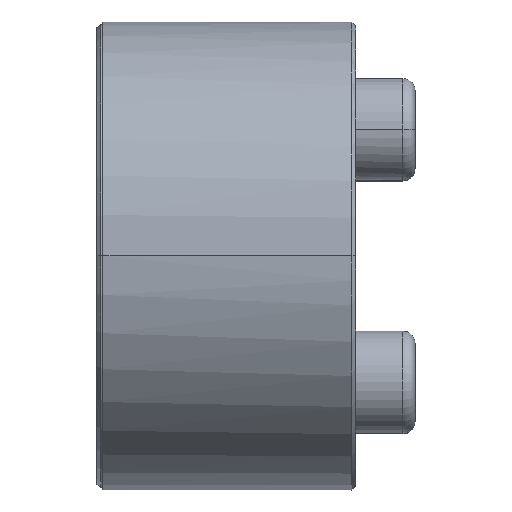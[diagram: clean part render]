
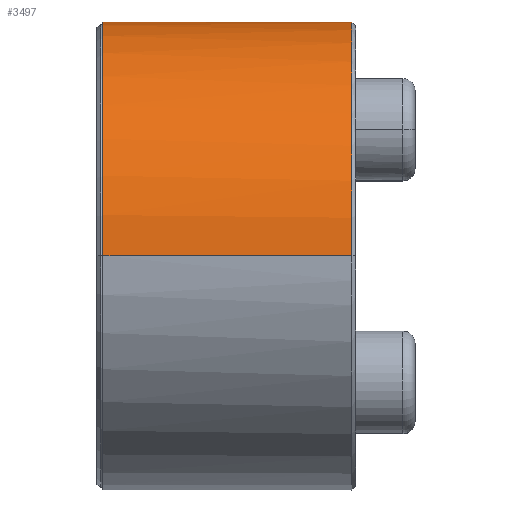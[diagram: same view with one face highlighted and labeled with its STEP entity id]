
A CAD part, top view. The second image highlights one B-rep face of the part: STEP entity #3497.
In plain terms, the highlighted cylindrical face has radius 19 mm (diameter 38 mm), a partial arc.
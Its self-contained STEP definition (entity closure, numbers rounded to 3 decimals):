
#22 = CARTESIAN_POINT ( 'NONE',  ( 20.686, 1.243, -19. ) ) ;
#64 = EDGE_CURVE ( 'NONE', #1168, #2019, #2271, .T. ) ;
#272 = DIRECTION ( 'NONE',  ( 1., 0., 0. ) ) ;
#330 = EDGE_CURVE ( 'NONE', #1168, #2873, #2304, .T. ) ;
#653 = DIRECTION ( 'NONE',  ( -1., 0., 0. ) ) ;
#823 = FACE_OUTER_BOUND ( 'NONE', #1007, .T. ) ;
#847 = CARTESIAN_POINT ( 'NONE',  ( 20.686, -0.001, -19. ) ) ;
#878 = EDGE_CURVE ( 'NONE', #2019, #3501, #1115, .T. ) ;
#908 = CARTESIAN_POINT ( 'NONE',  ( 20.686, 18.03, 6.122 ) ) ;
#926 = CARTESIAN_POINT ( 'NONE',  ( 20.686, 6.122, 18.03 ) ) ;
#927 = ORIENTED_EDGE ( 'NONE', *, *, #330, .F. ) ;
#971 = AXIS2_PLACEMENT_3D ( 'NONE', #3152, #653, #4023 ) ;
#1007 = EDGE_LOOP ( 'NONE', ( #3971, #927, #1633, #4356 ) ) ;
#1115 = B_SPLINE_CURVE_WITH_KNOTS ( 'NONE', 3,
 ( #3260, #3643, #2270, #1549, #926, #2206, #1882, #4253, #1261, #2882, #1942, #2584, #3616, #908, #1967, #4321, #3289, #2603, #3937, #1617, #2950, #4301, #1638, #1278, #1215, #2623, #3960, #1302, #2648, #3553, #3218, #1708, #22, #2011 ),
 .UNSPECIFIED., .F., .F.,
 ( 4, 2, 2, 2, 2, 2, 2, 2, 2, 2, 2, 2, 2, 2, 2, 2, 4 ),
 ( 0.246, 0.278, 0.309, 0.341, 0.373, 0.405, 0.436, 0.468, 0.5, 0.532, 0.564, 0.595, 0.627, 0.659, 0.691, 0.722, 0.754 ),
 .UNSPECIFIED. ) ;
#1121 = DIRECTION ( 'NONE',  ( 1., 0., 0. ) ) ;
#1168 = VERTEX_POINT ( 'NONE', #4121 ) ;
#1184 = CARTESIAN_POINT ( 'NONE',  ( 0.486, 0., 0. ) ) ;
#1215 = CARTESIAN_POINT ( 'NONE',  ( 20.686, 14.314, -12.556 ) ) ;
#1261 = CARTESIAN_POINT ( 'NONE',  ( 20.686, 12.555, 14.315 ) ) ;
#1278 = CARTESIAN_POINT ( 'NONE',  ( 20.686, 15.107, -11.59 ) ) ;
#1302 = CARTESIAN_POINT ( 'NONE',  ( 20.686, 9.521, -16.489 ) ) ;
#1549 = CARTESIAN_POINT ( 'NONE',  ( 20.686, 4.926, 18.392 ) ) ;
#1617 = CARTESIAN_POINT ( 'NONE',  ( 20.686, 18.392, -4.926 ) ) ;
#1633 = ORIENTED_EDGE ( 'NONE', *, *, #64, .T. ) ;
#1638 = CARTESIAN_POINT ( 'NONE',  ( 20.686, 16.489, -9.522 ) ) ;
#1708 = CARTESIAN_POINT ( 'NONE',  ( 20.686, 2.486, -18.878 ) ) ;
#1778 = DIRECTION ( 'NONE',  ( 0., 0., 1. ) ) ;
#1882 = CARTESIAN_POINT ( 'NONE',  ( 20.686, 9.521, 16.489 ) ) ;
#1942 = CARTESIAN_POINT ( 'NONE',  ( 20.686, 15.107, 11.59 ) ) ;
#1967 = CARTESIAN_POINT ( 'NONE',  ( 20.686, 18.392, 4.926 ) ) ;
#2011 = CARTESIAN_POINT ( 'NONE',  ( 20.686, -0.001, -19. ) ) ;
#2019 = VERTEX_POINT ( 'NONE', #4319 ) ;
#2076 = AXIS2_PLACEMENT_3D ( 'NONE', #1184, #3454, #1778 ) ;
#2131 = LINE ( 'NONE', #2826, #2491 ) ;
#2206 = CARTESIAN_POINT ( 'NONE',  ( 20.686, 8.419, 17.078 ) ) ;
#2270 = CARTESIAN_POINT ( 'NONE',  ( 20.686, 2.486, 18.878 ) ) ;
#2271 = LINE ( 'NONE', #3291, #2586 ) ;
#2304 = CIRCLE ( 'NONE', #971, 19. ) ;
#2491 = VECTOR ( 'NONE', #1121, 1000. ) ;
#2584 = CARTESIAN_POINT ( 'NONE',  ( 20.686, 16.489, 9.522 ) ) ;
#2586 = VECTOR ( 'NONE', #272, 1000. ) ;
#2603 = CARTESIAN_POINT ( 'NONE',  ( 20.686, 19., -1.244 ) ) ;
#2623 = CARTESIAN_POINT ( 'NONE',  ( 20.686, 12.555, -14.315 ) ) ;
#2648 = CARTESIAN_POINT ( 'NONE',  ( 20.686, 8.419, -17.078 ) ) ;
#2826 = CARTESIAN_POINT ( 'NONE',  ( 0.486, 0., -19. ) ) ;
#2873 = VERTEX_POINT ( 'NONE', #4087 ) ;
#2882 = CARTESIAN_POINT ( 'NONE',  ( 20.686, 14.314, 12.556 ) ) ;
#2950 = CARTESIAN_POINT ( 'NONE',  ( 20.686, 18.03, -6.122 ) ) ;
#3152 = CARTESIAN_POINT ( 'NONE',  ( 0.486, 0., 0. ) ) ;
#3218 = CARTESIAN_POINT ( 'NONE',  ( 20.686, 4.926, -18.392 ) ) ;
#3260 = CARTESIAN_POINT ( 'NONE',  ( 20.686, -0.001, 19. ) ) ;
#3289 = CARTESIAN_POINT ( 'NONE',  ( 20.686, 19., 1.244 ) ) ;
#3291 = CARTESIAN_POINT ( 'NONE',  ( 0.486, 0., 19. ) ) ;
#3454 = DIRECTION ( 'NONE',  ( 1., 0., 0. ) ) ;
#3469 = EDGE_CURVE ( 'NONE', #2873, #3501, #2131, .T. ) ;
#3497 = ADVANCED_FACE ( 'NONE', ( #823 ), #3515, .T. ) ;
#3501 = VERTEX_POINT ( 'NONE', #847 ) ;
#3515 = CYLINDRICAL_SURFACE ( 'NONE', #2076, 19. ) ;
#3553 = CARTESIAN_POINT ( 'NONE',  ( 20.686, 6.122, -18.03 ) ) ;
#3616 = CARTESIAN_POINT ( 'NONE',  ( 20.686, 17.078, 8.42 ) ) ;
#3643 = CARTESIAN_POINT ( 'NONE',  ( 20.686, 1.243, 19. ) ) ;
#3937 = CARTESIAN_POINT ( 'NONE',  ( 20.686, 18.878, -2.487 ) ) ;
#3960 = CARTESIAN_POINT ( 'NONE',  ( 20.686, 11.59, -15.107 ) ) ;
#3971 = ORIENTED_EDGE ( 'NONE', *, *, #3469, .F. ) ;
#4023 = DIRECTION ( 'NONE',  ( 0., -0.999, 0.053 ) ) ;
#4087 = CARTESIAN_POINT ( 'NONE',  ( 0.486, 0., -19. ) ) ;
#4121 = CARTESIAN_POINT ( 'NONE',  ( 0.486, 0., 19. ) ) ;
#4253 = CARTESIAN_POINT ( 'NONE',  ( 20.686, 11.59, 15.107 ) ) ;
#4301 = CARTESIAN_POINT ( 'NONE',  ( 20.686, 17.078, -8.42 ) ) ;
#4319 = CARTESIAN_POINT ( 'NONE',  ( 20.686, -0.001, 19. ) ) ;
#4321 = CARTESIAN_POINT ( 'NONE',  ( 20.686, 18.878, 2.487 ) ) ;
#4356 = ORIENTED_EDGE ( 'NONE', *, *, #878, .T. ) ;
